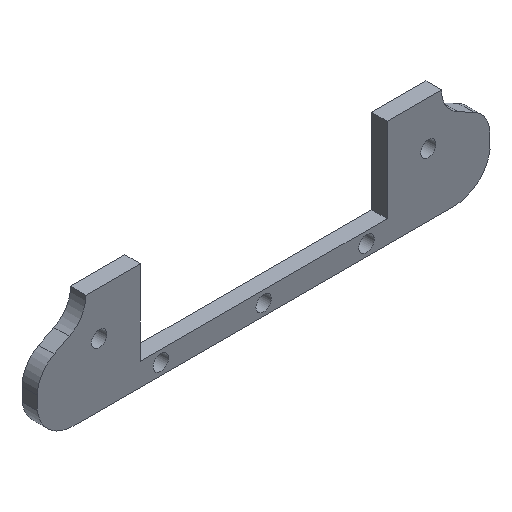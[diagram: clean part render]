
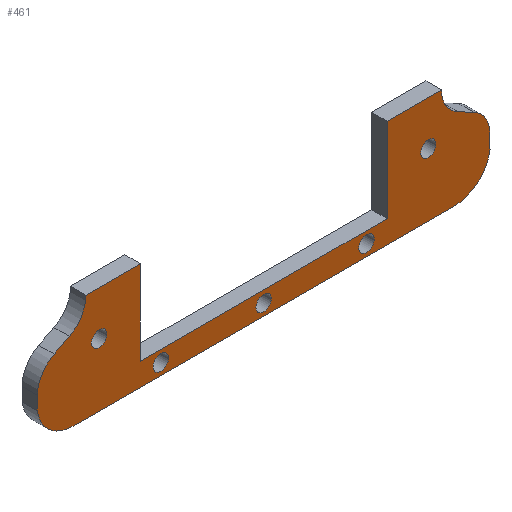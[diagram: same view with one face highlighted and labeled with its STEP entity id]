
A CAD part, isometric view. The second image highlights one B-rep face of the part: STEP entity #461.
In plain terms, the highlighted planar face has unit normal (0, -1, 0).
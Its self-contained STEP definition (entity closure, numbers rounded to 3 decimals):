
#20=FACE_BOUND('',#88,.T.);
#21=FACE_BOUND('',#89,.T.);
#22=FACE_BOUND('',#90,.T.);
#23=FACE_BOUND('',#91,.T.);
#24=FACE_BOUND('',#92,.T.);
#36=PLANE('',#520);
#59=FACE_OUTER_BOUND('',#87,.T.);
#87=EDGE_LOOP('',(#407,#408,#409,#410,#411,#412,#413,#414,#415,#416,#417,
#418,#419,#420,#421,#422));
#88=EDGE_LOOP('',(#423));
#89=EDGE_LOOP('',(#424));
#90=EDGE_LOOP('',(#425));
#91=EDGE_LOOP('',(#426));
#92=EDGE_LOOP('',(#427));
#100=LINE('',#696,#141);
#104=LINE('',#708,#145);
#108=LINE('',#720,#149);
#112=LINE('',#732,#153);
#116=LINE('',#744,#157);
#120=LINE('',#756,#161);
#123=LINE('',#762,#164);
#126=LINE('',#768,#167);
#129=LINE('',#774,#170);
#132=LINE('',#779,#173);
#141=VECTOR('',#568,10.);
#145=VECTOR('',#580,10.);
#149=VECTOR('',#592,10.);
#153=VECTOR('',#604,10.);
#157=VECTOR('',#616,10.);
#161=VECTOR('',#628,10.);
#164=VECTOR('',#633,10.);
#167=VECTOR('',#638,10.);
#170=VECTOR('',#643,10.);
#173=VECTOR('',#648,10.);
#175=CIRCLE('',#477,1.5);
#177=CIRCLE('',#480,1.5);
#179=CIRCLE('',#483,1.5);
#181=CIRCLE('',#486,1.5);
#183=CIRCLE('',#489,1.5);
#185=CIRCLE('',#492,6.);
#187=CIRCLE('',#496,6.);
#189=CIRCLE('',#500,7.);
#191=CIRCLE('',#504,7.);
#193=CIRCLE('',#508,6.);
#195=CIRCLE('',#512,6.);
#197=VERTEX_POINT('',#656);
#199=VERTEX_POINT('',#662);
#201=VERTEX_POINT('',#668);
#203=VERTEX_POINT('',#674);
#205=VERTEX_POINT('',#680);
#207=VERTEX_POINT('',#686);
#208=VERTEX_POINT('',#687);
#211=VERTEX_POINT('',#695);
#213=VERTEX_POINT('',#701);
#215=VERTEX_POINT('',#707);
#217=VERTEX_POINT('',#713);
#219=VERTEX_POINT('',#719);
#221=VERTEX_POINT('',#725);
#223=VERTEX_POINT('',#731);
#225=VERTEX_POINT('',#737);
#227=VERTEX_POINT('',#743);
#229=VERTEX_POINT('',#749);
#231=VERTEX_POINT('',#755);
#233=VERTEX_POINT('',#761);
#235=VERTEX_POINT('',#767);
#237=VERTEX_POINT('',#773);
#239=EDGE_CURVE('',#197,#197,#175,.T.);
#242=EDGE_CURVE('',#199,#199,#177,.T.);
#245=EDGE_CURVE('',#201,#201,#179,.T.);
#248=EDGE_CURVE('',#203,#203,#181,.T.);
#251=EDGE_CURVE('',#205,#205,#183,.T.);
#254=EDGE_CURVE('',#207,#208,#185,.T.);
#258=EDGE_CURVE('',#211,#208,#100,.T.);
#261=EDGE_CURVE('',#213,#211,#187,.T.);
#264=EDGE_CURVE('',#215,#213,#104,.T.);
#267=EDGE_CURVE('',#217,#215,#189,.T.);
#270=EDGE_CURVE('',#219,#217,#108,.T.);
#273=EDGE_CURVE('',#221,#219,#191,.T.);
#276=EDGE_CURVE('',#223,#221,#112,.T.);
#279=EDGE_CURVE('',#225,#223,#193,.T.);
#282=EDGE_CURVE('',#227,#225,#116,.T.);
#285=EDGE_CURVE('',#227,#229,#195,.T.);
#288=EDGE_CURVE('',#231,#229,#120,.T.);
#291=EDGE_CURVE('',#231,#233,#123,.T.);
#294=EDGE_CURVE('',#235,#233,#126,.T.);
#297=EDGE_CURVE('',#237,#235,#129,.T.);
#300=EDGE_CURVE('',#207,#237,#132,.T.);
#407=ORIENTED_EDGE('',*,*,#300,.F.);
#408=ORIENTED_EDGE('',*,*,#254,.T.);
#409=ORIENTED_EDGE('',*,*,#258,.F.);
#410=ORIENTED_EDGE('',*,*,#261,.F.);
#411=ORIENTED_EDGE('',*,*,#264,.F.);
#412=ORIENTED_EDGE('',*,*,#267,.F.);
#413=ORIENTED_EDGE('',*,*,#270,.F.);
#414=ORIENTED_EDGE('',*,*,#273,.F.);
#415=ORIENTED_EDGE('',*,*,#276,.F.);
#416=ORIENTED_EDGE('',*,*,#279,.F.);
#417=ORIENTED_EDGE('',*,*,#282,.F.);
#418=ORIENTED_EDGE('',*,*,#285,.T.);
#419=ORIENTED_EDGE('',*,*,#288,.F.);
#420=ORIENTED_EDGE('',*,*,#291,.T.);
#421=ORIENTED_EDGE('',*,*,#294,.F.);
#422=ORIENTED_EDGE('',*,*,#297,.F.);
#423=ORIENTED_EDGE('',*,*,#251,.T.);
#424=ORIENTED_EDGE('',*,*,#248,.T.);
#425=ORIENTED_EDGE('',*,*,#245,.T.);
#426=ORIENTED_EDGE('',*,*,#242,.T.);
#427=ORIENTED_EDGE('',*,*,#239,.T.);
#461=ADVANCED_FACE('',(#59,#20,#21,#22,#23,#24),#36,.F.);
#477=AXIS2_PLACEMENT_3D('',#657,#525,#526);
#480=AXIS2_PLACEMENT_3D('',#663,#532,#533);
#483=AXIS2_PLACEMENT_3D('',#669,#539,#540);
#486=AXIS2_PLACEMENT_3D('',#675,#546,#547);
#489=AXIS2_PLACEMENT_3D('',#681,#553,#554);
#492=AXIS2_PLACEMENT_3D('',#688,#560,#561);
#496=AXIS2_PLACEMENT_3D('',#702,#573,#574);
#500=AXIS2_PLACEMENT_3D('',#714,#585,#586);
#504=AXIS2_PLACEMENT_3D('',#726,#597,#598);
#508=AXIS2_PLACEMENT_3D('',#738,#609,#610);
#512=AXIS2_PLACEMENT_3D('',#750,#621,#622);
#520=AXIS2_PLACEMENT_3D('',#782,#652,#653);
#525=DIRECTION('center_axis',(0.,1.,0.));
#526=DIRECTION('ref_axis',(1.,0.,0.));
#532=DIRECTION('center_axis',(0.,1.,0.));
#533=DIRECTION('ref_axis',(1.,0.,0.));
#539=DIRECTION('center_axis',(0.,1.,0.));
#540=DIRECTION('ref_axis',(1.,0.,0.));
#546=DIRECTION('center_axis',(0.,1.,0.));
#547=DIRECTION('ref_axis',(1.,0.,0.));
#553=DIRECTION('center_axis',(0.,1.,0.));
#554=DIRECTION('ref_axis',(1.,0.,0.));
#560=DIRECTION('center_axis',(0.,1.,0.));
#561=DIRECTION('ref_axis',(1.,0.,0.));
#568=DIRECTION('',(0.889,0.,0.458));
#573=DIRECTION('center_axis',(0.,1.,0.));
#574=DIRECTION('ref_axis',(-1.,0.,0.));
#580=DIRECTION('',(0.,0.,1.));
#585=DIRECTION('center_axis',(0.,1.,0.));
#586=DIRECTION('ref_axis',(0.,0.,-1.));
#592=DIRECTION('',(-1.,0.,0.));
#597=DIRECTION('center_axis',(0.,1.,0.));
#598=DIRECTION('ref_axis',(0.99,0.,-0.143));
#604=DIRECTION('',(0.,0.,-1.));
#609=DIRECTION('center_axis',(0.,1.,0.));
#610=DIRECTION('ref_axis',(0.458,0.,0.889));
#616=DIRECTION('',(0.889,0.,-0.458));
#621=DIRECTION('center_axis',(0.,1.,0.));
#622=DIRECTION('ref_axis',(-0.458,0.,-0.889));
#628=DIRECTION('',(1.,0.,0.));
#633=DIRECTION('',(0.,0.,-1.));
#638=DIRECTION('',(1.,0.,0.));
#643=DIRECTION('',(0.,0.,-1.));
#648=DIRECTION('',(1.,0.,0.));
#652=DIRECTION('center_axis',(0.,1.,0.));
#653=DIRECTION('ref_axis',(-1.,0.,0.));
#656=CARTESIAN_POINT('',(24.5,95.5,-19.698));
#657=CARTESIAN_POINT('Origin',(26.,95.5,-19.698));
#662=CARTESIAN_POINT('',(4.5,95.5,-19.698));
#663=CARTESIAN_POINT('Origin',(6.,95.5,-19.698));
#668=CARTESIAN_POINT('',(44.5,95.5,-19.698));
#669=CARTESIAN_POINT('Origin',(46.,95.5,-19.698));
#674=CARTESIAN_POINT('',(-7.5,95.5,-9.698));
#675=CARTESIAN_POINT('Origin',(-6.,95.5,-9.698));
#680=CARTESIAN_POINT('',(56.5,95.5,-9.698));
#681=CARTESIAN_POINT('Origin',(58.,95.5,-9.698));
#686=CARTESIAN_POINT('',(-8.55,95.5,-1.082));
#687=CARTESIAN_POINT('',(-11.801,95.5,-6.415));
#688=CARTESIAN_POINT('Origin',(-14.55,95.5,-1.082));
#695=CARTESIAN_POINT('',(-14.749,95.5,-7.935));
#696=CARTESIAN_POINT('',(-14.749,95.5,-7.935));
#701=CARTESIAN_POINT('',(-18.,95.5,-13.268));
#702=CARTESIAN_POINT('Origin',(-12.,95.5,-13.268));
#707=CARTESIAN_POINT('',(-18.,95.5,-15.898));
#708=CARTESIAN_POINT('',(-18.,95.5,-15.898));
#713=CARTESIAN_POINT('',(-11.072,95.5,-21.898));
#714=CARTESIAN_POINT('Origin',(-11.072,95.5,-14.898));
#719=CARTESIAN_POINT('',(63.072,95.5,-21.898));
#720=CARTESIAN_POINT('',(63.072,95.5,-21.898));
#725=CARTESIAN_POINT('',(70.,95.5,-15.898));
#726=CARTESIAN_POINT('Origin',(63.072,95.5,-14.898));
#731=CARTESIAN_POINT('',(70.,95.5,-13.268));
#732=CARTESIAN_POINT('',(70.,95.5,-13.268));
#737=CARTESIAN_POINT('',(66.749,95.5,-7.935));
#738=CARTESIAN_POINT('Origin',(64.,95.5,-13.268));
#743=CARTESIAN_POINT('',(63.801,95.5,-6.415));
#744=CARTESIAN_POINT('',(63.801,95.5,-6.415));
#749=CARTESIAN_POINT('',(60.55,95.5,-1.082));
#750=CARTESIAN_POINT('Origin',(66.55,95.5,-1.082));
#755=CARTESIAN_POINT('',(50.,95.5,-1.082));
#756=CARTESIAN_POINT('',(50.,95.5,-1.082));
#761=CARTESIAN_POINT('',(50.,95.5,-17.498));
#762=CARTESIAN_POINT('',(50.,95.5,-15.898));
#767=CARTESIAN_POINT('',(2.,95.5,-17.498));
#768=CARTESIAN_POINT('',(-10.378,95.5,-17.498));
#773=CARTESIAN_POINT('',(2.,95.5,-1.082));
#774=CARTESIAN_POINT('',(2.,95.5,-1.082));
#779=CARTESIAN_POINT('',(-8.55,95.5,-1.082));
#782=CARTESIAN_POINT('Origin',(26.,95.5,-11.49));
